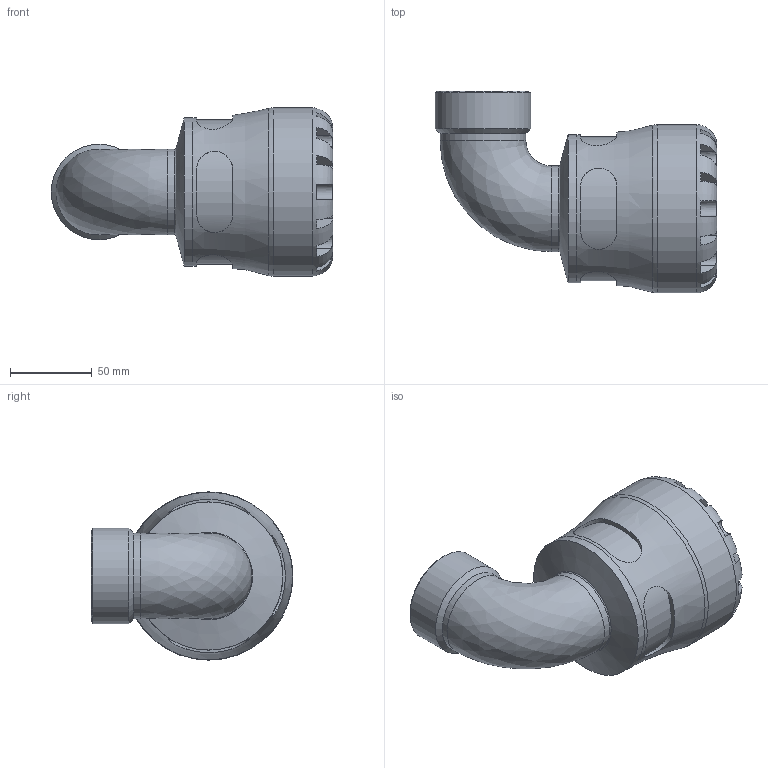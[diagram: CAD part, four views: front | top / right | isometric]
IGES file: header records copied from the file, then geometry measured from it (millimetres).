
Global section: file name: 107600063015_197600063015.ipt; native system: Autodesk Inventor 2015; preprocessor: unknown; author: KIM; date: 20180513.110331; units: millimetre
Bounding box: 172.15 x 123.5 x 103 mm (x, y, z)
Volume: 488503.8 mm3; surface area: 91761.3 mm2
Topology: 1 solids, 1 shells, 108 faces, 277 edges, 176 vertices
Faces by surface type: plane 60, revolution 28, cylinder 17, cone 3
Full cylindrical faces by diameter (mm): 52.469 x2, 58.298 x1, 90.64 x1, 103 x1
